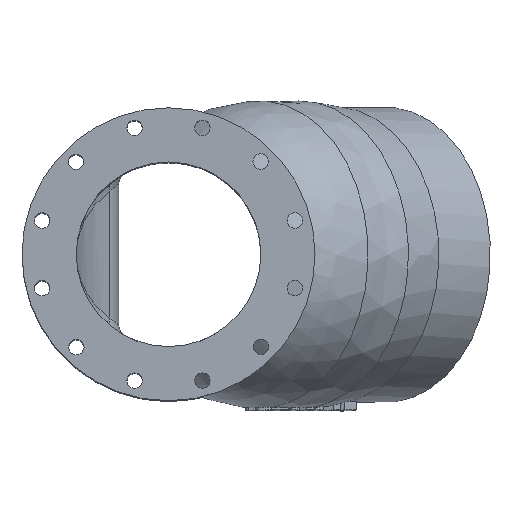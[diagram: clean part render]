
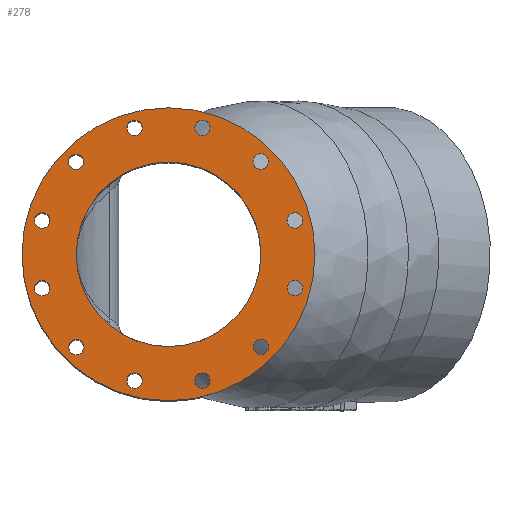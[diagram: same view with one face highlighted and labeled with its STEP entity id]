
A CAD part, top view. The second image highlights one B-rep face of the part: STEP entity #278.
In plain terms, the highlighted planar face has unit normal (0, 0, 1).
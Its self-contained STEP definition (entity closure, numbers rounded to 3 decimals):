
#278 = ADVANCED_FACE( '', ( #776, #777, #778, #779, #780, #781, #782, #783, #784, #785, #786, #787, #788, #789 ), #790, .F. );
#776 = FACE_BOUND( '', #2263, .T. );
#777 = FACE_BOUND( '', #2264, .T. );
#778 = FACE_BOUND( '', #2265, .T. );
#779 = FACE_BOUND( '', #2266, .T. );
#780 = FACE_BOUND( '', #2267, .T. );
#781 = FACE_BOUND( '', #2268, .T. );
#782 = FACE_BOUND( '', #2269, .T. );
#783 = FACE_BOUND( '', #2270, .T. );
#784 = FACE_BOUND( '', #2271, .T. );
#785 = FACE_BOUND( '', #2272, .T. );
#786 = FACE_BOUND( '', #2273, .T. );
#787 = FACE_BOUND( '', #2274, .T. );
#788 = FACE_OUTER_BOUND( '', #2275, .T. );
#789 = FACE_BOUND( '', #2276, .T. );
#790 = PLANE( '', #2277 );
#2263 = EDGE_LOOP( '', ( #12292 ) );
#2264 = EDGE_LOOP( '', ( #12293 ) );
#2265 = EDGE_LOOP( '', ( #12294 ) );
#2266 = EDGE_LOOP( '', ( #12295 ) );
#2267 = EDGE_LOOP( '', ( #12296 ) );
#2268 = EDGE_LOOP( '', ( #12297 ) );
#2269 = EDGE_LOOP( '', ( #12298 ) );
#2270 = EDGE_LOOP( '', ( #12299 ) );
#2271 = EDGE_LOOP( '', ( #12300 ) );
#2272 = EDGE_LOOP( '', ( #12301 ) );
#2273 = EDGE_LOOP( '', ( #12302 ) );
#2274 = EDGE_LOOP( '', ( #12303 ) );
#2275 = EDGE_LOOP( '', ( #12304 ) );
#2276 = EDGE_LOOP( '', ( #12305 ) );
#2277 = AXIS2_PLACEMENT_3D( '', #12306, #12307, #12308 );
#12292 = ORIENTED_EDGE( '', *, *, #14347, .F. );
#12293 = ORIENTED_EDGE( '', *, *, #14348, .F. );
#12294 = ORIENTED_EDGE( '', *, *, #14349, .F. );
#12295 = ORIENTED_EDGE( '', *, *, #14350, .F. );
#12296 = ORIENTED_EDGE( '', *, *, #14351, .F. );
#12297 = ORIENTED_EDGE( '', *, *, #14352, .F. );
#12298 = ORIENTED_EDGE( '', *, *, #14353, .F. );
#12299 = ORIENTED_EDGE( '', *, *, #14354, .F. );
#12300 = ORIENTED_EDGE( '', *, *, #14355, .F. );
#12301 = ORIENTED_EDGE( '', *, *, #14356, .F. );
#12302 = ORIENTED_EDGE( '', *, *, #14357, .F. );
#12303 = ORIENTED_EDGE( '', *, *, #14358, .F. );
#12304 = ORIENTED_EDGE( '', *, *, #14359, .F. );
#12305 = ORIENTED_EDGE( '', *, *, #14360, .T. );
#12306 = CARTESIAN_POINT( '', ( 0., 0., 0. ) );
#12307 = DIRECTION( '', ( 0., 0., -1. ) );
#12308 = DIRECTION( '', ( -1., 0., 0. ) );
#14347 = EDGE_CURVE( '', #15136, #15136, #15137, .T. );
#14348 = EDGE_CURVE( '', #15138, #15138, #15139, .T. );
#14349 = EDGE_CURVE( '', #15140, #15140, #15141, .T. );
#14350 = EDGE_CURVE( '', #15142, #15142, #15143, .T. );
#14351 = EDGE_CURVE( '', #15144, #15144, #15145, .T. );
#14352 = EDGE_CURVE( '', #15146, #15146, #15147, .T. );
#14353 = EDGE_CURVE( '', #15148, #15148, #15149, .T. );
#14354 = EDGE_CURVE( '', #15150, #15150, #15151, .T. );
#14355 = EDGE_CURVE( '', #15152, #15152, #15153, .T. );
#14356 = EDGE_CURVE( '', #15154, #15154, #15155, .T. );
#14357 = EDGE_CURVE( '', #15156, #15156, #15157, .T. );
#14358 = EDGE_CURVE( '', #15158, #15158, #15159, .T. );
#14359 = EDGE_CURVE( '', #15160, #15160, #15161, .T. );
#14360 = EDGE_CURVE( '', #15162, #15162, #15163, .T. );
#15136 = VERTEX_POINT( '', #16936 );
#15137 = CIRCLE( '', #16937, 12.7 );
#15138 = VERTEX_POINT( '', #16938 );
#15139 = CIRCLE( '', #16939, 12.7 );
#15140 = VERTEX_POINT( '', #16940 );
#15141 = CIRCLE( '', #16941, 12.7 );
#15142 = VERTEX_POINT( '', #16942 );
#15143 = CIRCLE( '', #16943, 12.7 );
#15144 = VERTEX_POINT( '', #16944 );
#15145 = CIRCLE( '', #16945, 12.7 );
#15146 = VERTEX_POINT( '', #16946 );
#15147 = CIRCLE( '', #16947, 12.7 );
#15148 = VERTEX_POINT( '', #16948 );
#15149 = CIRCLE( '', #16949, 12.7 );
#15150 = VERTEX_POINT( '', #16950 );
#15151 = CIRCLE( '', #16951, 12.7 );
#15152 = VERTEX_POINT( '', #16952 );
#15153 = CIRCLE( '', #16953, 12.7 );
#15154 = VERTEX_POINT( '', #16954 );
#15155 = CIRCLE( '', #16955, 12.7 );
#15156 = VERTEX_POINT( '', #16956 );
#15157 = CIRCLE( '', #16957, 12.7 );
#15158 = VERTEX_POINT( '', #16958 );
#15159 = CIRCLE( '', #16959, 12.7 );
#15160 = VERTEX_POINT( '', #16960 );
#15161 = CIRCLE( '', #16961, 241.3 );
#15162 = VERTEX_POINT( '', #16962 );
#15163 = CIRCLE( '', #16963, 152. );
#16936 = CARTESIAN_POINT( '', ( -195.457, -55.776, 0. ) );
#16937 = AXIS2_PLACEMENT_3D( '', #24913, #24914, #24915 );
#16938 = CARTESIAN_POINT( '', ( -139.139, -152.922, 0. ) );
#16939 = AXIS2_PLACEMENT_3D( '', #24916, #24917, #24918 );
#16940 = CARTESIAN_POINT( '', ( -43.076, -208.157, 0. ) );
#16941 = AXIS2_PLACEMENT_3D( '', #24919, #24920, #24921 );
#16942 = CARTESIAN_POINT( '', ( 68.476, -208.157, 0. ) );
#16943 = AXIS2_PLACEMENT_3D( '', #24922, #24923, #24924 );
#16944 = CARTESIAN_POINT( '', ( 165.082, -152.382, 0. ) );
#16945 = AXIS2_PLACEMENT_3D( '', #24925, #24926, #24927 );
#16946 = CARTESIAN_POINT( '', ( 220.857, -55.776, 0. ) );
#16947 = AXIS2_PLACEMENT_3D( '', #24928, #24929, #24930 );
#16948 = CARTESIAN_POINT( '', ( 220.857, 55.776, 0. ) );
#16949 = AXIS2_PLACEMENT_3D( '', #24931, #24932, #24933 );
#16950 = CARTESIAN_POINT( '', ( 164.539, 152.922, 0. ) );
#16951 = AXIS2_PLACEMENT_3D( '', #24934, #24935, #24936 );
#16952 = CARTESIAN_POINT( '', ( 68.476, 208.157, 0. ) );
#16953 = AXIS2_PLACEMENT_3D( '', #24937, #24938, #24939 );
#16954 = CARTESIAN_POINT( '', ( -43.076, 208.157, 0. ) );
#16955 = AXIS2_PLACEMENT_3D( '', #24940, #24941, #24942 );
#16956 = CARTESIAN_POINT( '', ( -195.457, 55.776, 0. ) );
#16957 = AXIS2_PLACEMENT_3D( '', #24943, #24944, #24945 );
#16958 = CARTESIAN_POINT( '', ( -139.682, 152.382, 0. ) );
#16959 = AXIS2_PLACEMENT_3D( '', #24946, #24947, #24948 );
#16960 = CARTESIAN_POINT( '', ( 241.3, 0., 0. ) );
#16961 = AXIS2_PLACEMENT_3D( '', #24949, #24950, #24951 );
#16962 = CARTESIAN_POINT( '', ( -152., 0., 0. ) );
#16963 = AXIS2_PLACEMENT_3D( '', #24952, #24953, #24954 );
#24913 = CARTESIAN_POINT( '', ( -208.157, -55.776, 0. ) );
#24914 = DIRECTION( '', ( 0., 0., 1. ) );
#24915 = DIRECTION( '', ( 1., 0., 0. ) );
#24916 = CARTESIAN_POINT( '', ( -151.839, -152.922, 0. ) );
#24917 = DIRECTION( '', ( 0., 0., 1. ) );
#24918 = DIRECTION( '', ( 1., 0., 0. ) );
#24919 = CARTESIAN_POINT( '', ( -55.776, -208.157, 0. ) );
#24920 = DIRECTION( '', ( 0., 0., 1. ) );
#24921 = DIRECTION( '', ( 1., 0., 0. ) );
#24922 = CARTESIAN_POINT( '', ( 55.776, -208.157, 0. ) );
#24923 = DIRECTION( '', ( 0., 0., 1. ) );
#24924 = DIRECTION( '', ( 1., 0., 0. ) );
#24925 = CARTESIAN_POINT( '', ( 152.382, -152.382, 0. ) );
#24926 = DIRECTION( '', ( 0., 0., 1. ) );
#24927 = DIRECTION( '', ( 1., 0., 0. ) );
#24928 = CARTESIAN_POINT( '', ( 208.157, -55.776, 0. ) );
#24929 = DIRECTION( '', ( 0., 0., 1. ) );
#24930 = DIRECTION( '', ( 1., 0., 0. ) );
#24931 = CARTESIAN_POINT( '', ( 208.157, 55.776, 0. ) );
#24932 = DIRECTION( '', ( 0., 0., 1. ) );
#24933 = DIRECTION( '', ( 1., 0., 0. ) );
#24934 = CARTESIAN_POINT( '', ( 151.839, 152.922, 0. ) );
#24935 = DIRECTION( '', ( 0., 0., 1. ) );
#24936 = DIRECTION( '', ( 1., 0., 0. ) );
#24937 = CARTESIAN_POINT( '', ( 55.776, 208.157, 0. ) );
#24938 = DIRECTION( '', ( 0., 0., 1. ) );
#24939 = DIRECTION( '', ( 1., 0., 0. ) );
#24940 = CARTESIAN_POINT( '', ( -55.776, 208.157, 0. ) );
#24941 = DIRECTION( '', ( 0., 0., 1. ) );
#24942 = DIRECTION( '', ( 1., 0., 0. ) );
#24943 = CARTESIAN_POINT( '', ( -208.157, 55.776, 0. ) );
#24944 = DIRECTION( '', ( 0., 0., 1. ) );
#24945 = DIRECTION( '', ( 1., 0., 0. ) );
#24946 = CARTESIAN_POINT( '', ( -152.382, 152.382, 0. ) );
#24947 = DIRECTION( '', ( 0., 0., 1. ) );
#24948 = DIRECTION( '', ( 1., 0., 0. ) );
#24949 = CARTESIAN_POINT( '', ( 0., 0., 0. ) );
#24950 = DIRECTION( '', ( 0., 0., -1. ) );
#24951 = DIRECTION( '', ( 1., 0., 0. ) );
#24952 = CARTESIAN_POINT( '', ( 0., 0., 0. ) );
#24953 = DIRECTION( '', ( 0., 0., -1. ) );
#24954 = DIRECTION( '', ( -1., 0., 0. ) );
